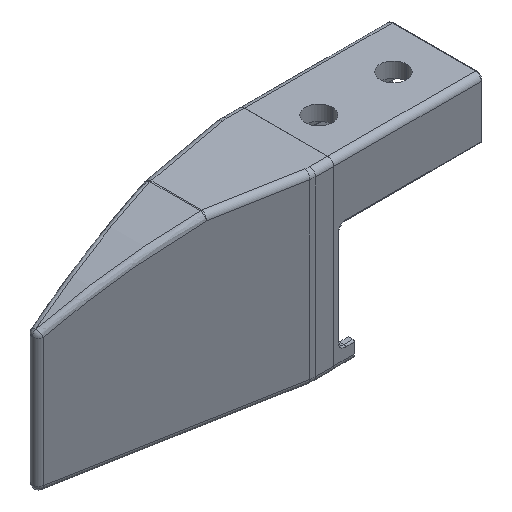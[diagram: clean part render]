
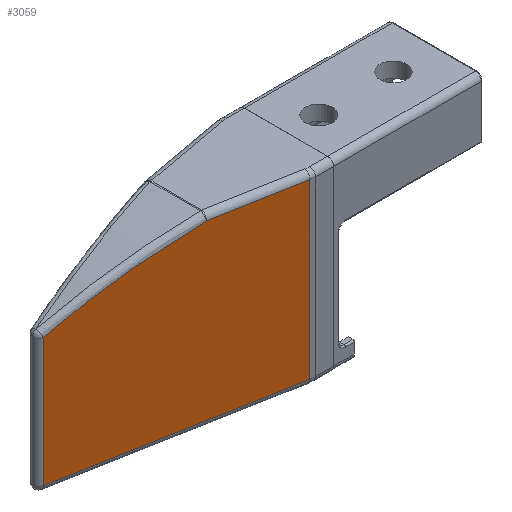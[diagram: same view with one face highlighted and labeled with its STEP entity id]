
A CAD part, isometric view. The second image highlights one B-rep face of the part: STEP entity #3059.
In plain terms, the highlighted planar face has unit normal (-0.181, -0.984, 0).
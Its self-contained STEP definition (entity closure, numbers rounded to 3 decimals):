
#68 = LINE ( 'NONE', #1036, #578 ) ;
#106 = PLANE ( 'NONE',  #2210 ) ;
#207 = DIRECTION ( 'NONE',  ( 0., 0., 1. ) ) ;
#215 = CARTESIAN_POINT ( 'NONE',  ( -83.361, 14.033, -2. ) ) ;
#263 = DIRECTION ( 'NONE',  ( 0., 0., 1. ) ) ;
#264 = ORIENTED_EDGE ( 'NONE', *, *, #434, .F. ) ;
#286 = CARTESIAN_POINT ( 'NONE',  ( -68.618, 11.324, -10.095 ) ) ;
#434 = EDGE_CURVE ( 'NONE', #3344, #1390, #2115, .T. ) ;
#439 = CARTESIAN_POINT ( 'NONE',  ( -7.896, 0.165, -60. ) ) ;
#484 = VERTEX_POINT ( 'NONE', #3035 ) ;
#578 = VECTOR ( 'NONE', #207, 1000. ) ;
#646 = DIRECTION ( 'NONE',  ( 0.984, -0.181, 0. ) ) ;
#824 = CARTESIAN_POINT ( 'NONE',  ( -83.361, 14.033, -60. ) ) ;
#844 = CARTESIAN_POINT ( 'NONE',  ( -37.171, 5.545, -2. ) ) ;
#894 = VERTEX_POINT ( 'NONE', #3227 ) ;
#936 = ORIENTED_EDGE ( 'NONE', *, *, #2673, .T. ) ;
#1007 = ORIENTED_EDGE ( 'NONE', *, *, #2265, .T. ) ;
#1036 = CARTESIAN_POINT ( 'NONE',  ( -7.896, 0.165, -62. ) ) ;
#1234 = EDGE_LOOP ( 'NONE', ( #264, #2728, #936, #2258, #1007 ) ) ;
#1283 = EDGE_CURVE ( 'NONE', #2195, #484, #2042, .T. ) ;
#1326 = CARTESIAN_POINT ( 'NONE',  ( -7.896, 0.165, -2. ) ) ;
#1358 =( BOUNDED_CURVE ( )  B_SPLINE_CURVE ( 3, ( #844, #2948, #286, #1882 ),
 .UNSPECIFIED., .F., .F. ) 
 B_SPLINE_CURVE_WITH_KNOTS ( ( 4, 4 ),
 ( 1.761, 2.007 ),
 .UNSPECIFIED. ) 
 CURVE ( )  GEOMETRIC_REPRESENTATION_ITEM ( )  RATIONAL_B_SPLINE_CURVE ( ( 1., 0.995, 0.995, 1. ) ) 
 REPRESENTATION_ITEM ( '' )  );
#1390 = VERTEX_POINT ( 'NONE', #2970 ) ;
#1483 = DIRECTION ( 'NONE',  ( 0.984, -0.181, 0. ) ) ;
#1621 = DIRECTION ( 'NONE',  ( -0.984, 0.181, 0. ) ) ;
#1699 = VECTOR ( 'NONE', #1483, 1000. ) ;
#1714 = VECTOR ( 'NONE', #1621, 1000. ) ;
#1752 = VECTOR ( 'NONE', #263, 1000. ) ;
#1882 = CARTESIAN_POINT ( 'NONE',  ( -83.361, 14.033, -16.97 ) ) ;
#2033 = CARTESIAN_POINT ( 'NONE',  ( -83.361, 14.033, -62. ) ) ;
#2042 = LINE ( 'NONE', #215, #1714 ) ;
#2115 = LINE ( 'NONE', #2678, #1752 ) ;
#2195 = VERTEX_POINT ( 'NONE', #1326 ) ;
#2210 = AXIS2_PLACEMENT_3D ( 'NONE', #2033, #2559, #646 ) ;
#2258 = ORIENTED_EDGE ( 'NONE', *, *, #1283, .T. ) ;
#2265 = EDGE_CURVE ( 'NONE', #484, #1390, #1358, .T. ) ;
#2315 = FACE_OUTER_BOUND ( 'NONE', #1234, .T. ) ;
#2559 = DIRECTION ( 'NONE',  ( -0.181, -0.984, 0. ) ) ;
#2673 = EDGE_CURVE ( 'NONE', #894, #2195, #68, .T. ) ;
#2678 = CARTESIAN_POINT ( 'NONE',  ( -83.361, 14.033, -62. ) ) ;
#2728 = ORIENTED_EDGE ( 'NONE', *, *, #3050, .T. ) ;
#2948 = CARTESIAN_POINT ( 'NONE',  ( -53.144, 8.48, -5.08 ) ) ;
#2970 = CARTESIAN_POINT ( 'NONE',  ( -83.361, 14.033, -16.97 ) ) ;
#3035 = CARTESIAN_POINT ( 'NONE',  ( -37.171, 5.545, -2. ) ) ;
#3050 = EDGE_CURVE ( 'NONE', #3344, #894, #3478, .T. ) ;
#3059 = ADVANCED_FACE ( 'NONE', ( #2315 ), #106, .T. ) ;
#3227 = CARTESIAN_POINT ( 'NONE',  ( -7.896, 0.165, -60. ) ) ;
#3344 = VERTEX_POINT ( 'NONE', #824 ) ;
#3478 = LINE ( 'NONE', #439, #1699 ) ;
